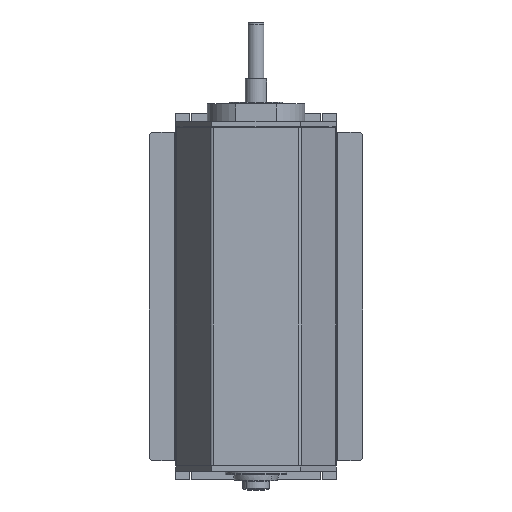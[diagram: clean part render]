
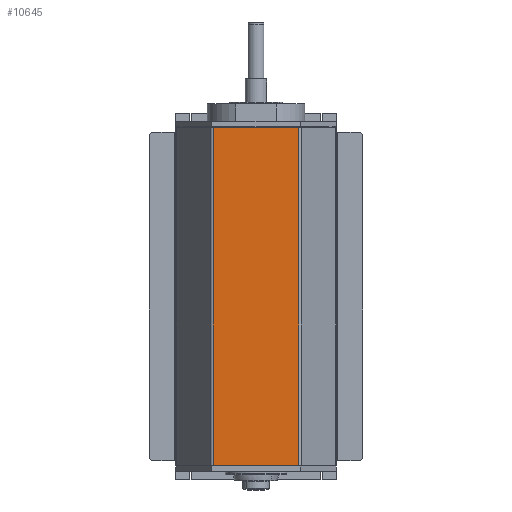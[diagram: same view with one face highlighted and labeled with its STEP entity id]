
A CAD part, front view. The second image highlights one B-rep face of the part: STEP entity #10645.
In plain terms, the highlighted planar face has unit normal (0, -1, 0).
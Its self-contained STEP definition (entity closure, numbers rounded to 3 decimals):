
#158 = LINE ( 'NONE', #3001, #9162 ) ;
#433 = ORIENTED_EDGE ( 'NONE', *, *, #18253, .F. ) ;
#807 = VECTOR ( 'NONE', #5153, 1000. ) ;
#809 = DIRECTION ( 'NONE',  ( -1., 0., 0. ) ) ;
#892 = ORIENTED_EDGE ( 'NONE', *, *, #11243, .T. ) ;
#2299 = VECTOR ( 'NONE', #10290, 1000. ) ;
#2410 = VERTEX_POINT ( 'NONE', #4708 ) ;
#3001 = CARTESIAN_POINT ( 'NONE',  ( -50., 0., 189.5 ) ) ;
#3638 = VERTEX_POINT ( 'NONE', #9513 ) ;
#3933 = CARTESIAN_POINT ( 'NONE',  ( -50., 0., -189.5 ) ) ;
#4479 = ORIENTED_EDGE ( 'NONE', *, *, #7268, .F. ) ;
#4708 = CARTESIAN_POINT ( 'NONE',  ( 48.268, 0., 189.5 ) ) ;
#5153 = DIRECTION ( 'NONE',  ( 0., 0., -1. ) ) ;
#6203 = AXIS2_PLACEMENT_3D ( 'NONE', #10389, #19857, #809 ) ;
#7268 = EDGE_CURVE ( 'NONE', #15103, #2410, #158, .T. ) ;
#7444 = CARTESIAN_POINT ( 'NONE',  ( -48.268, 0., 189.5 ) ) ;
#7701 = LINE ( 'NONE', #7444, #8205 ) ;
#8051 = LINE ( 'NONE', #3933, #2299 ) ;
#8205 = VECTOR ( 'NONE', #10394, 1000. ) ;
#9162 = VECTOR ( 'NONE', #9352, 1000. ) ;
#9352 = DIRECTION ( 'NONE',  ( 1., 0., 0. ) ) ;
#9513 = CARTESIAN_POINT ( 'NONE',  ( -48.268, 0., -189.5 ) ) ;
#10232 = EDGE_LOOP ( 'NONE', ( #892, #433, #4479, #17852 ) ) ;
#10256 = PLANE ( 'NONE',  #6203 ) ;
#10290 = DIRECTION ( 'NONE',  ( 1., 0., 0. ) ) ;
#10389 = CARTESIAN_POINT ( 'NONE',  ( -50., 0., 189.5 ) ) ;
#10394 = DIRECTION ( 'NONE',  ( 0., 0., -1. ) ) ;
#10645 = ADVANCED_FACE ( 'NONE', ( #17259 ), #10256, .F. ) ;
#11243 = EDGE_CURVE ( 'NONE', #3638, #20194, #8051, .T. ) ;
#13674 = CARTESIAN_POINT ( 'NONE',  ( 48.268, 0., -189.5 ) ) ;
#14150 = EDGE_CURVE ( 'NONE', #15103, #3638, #7701, .T. ) ;
#15103 = VERTEX_POINT ( 'NONE', #19547 ) ;
#16241 = CARTESIAN_POINT ( 'NONE',  ( 48.268, 0., 189.5 ) ) ;
#17259 = FACE_OUTER_BOUND ( 'NONE', #10232, .T. ) ;
#17762 = LINE ( 'NONE', #16241, #807 ) ;
#17852 = ORIENTED_EDGE ( 'NONE', *, *, #14150, .T. ) ;
#18253 = EDGE_CURVE ( 'NONE', #2410, #20194, #17762, .T. ) ;
#19547 = CARTESIAN_POINT ( 'NONE',  ( -48.268, 0., 189.5 ) ) ;
#19857 = DIRECTION ( 'NONE',  ( 0., 1., 0. ) ) ;
#20194 = VERTEX_POINT ( 'NONE', #13674 ) ;
